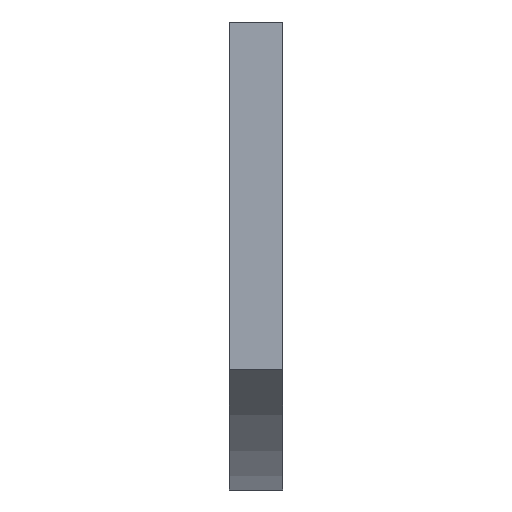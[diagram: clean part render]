
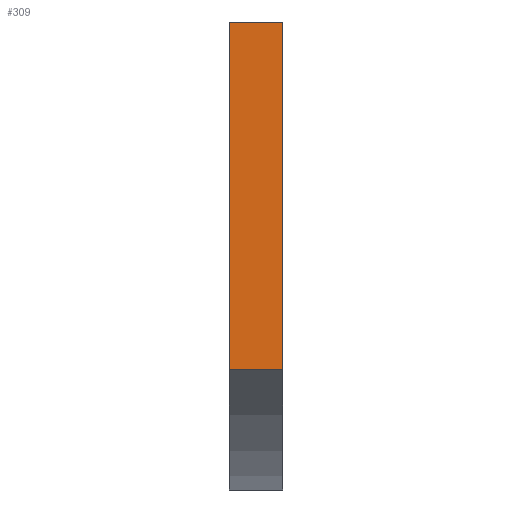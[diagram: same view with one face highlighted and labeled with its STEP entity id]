
A CAD part, front view. The second image highlights one B-rep face of the part: STEP entity #309.
In plain terms, the highlighted planar face has unit normal (0, -1, 0).
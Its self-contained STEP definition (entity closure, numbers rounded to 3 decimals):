
#21 = EDGE_CURVE('',#22,#24,#26,.T.);
#22 = VERTEX_POINT('',#23);
#23 = CARTESIAN_POINT('',(0.,0.,6.789));
#24 = VERTEX_POINT('',#25);
#25 = CARTESIAN_POINT('',(0.,0.,26.4));
#26 = SURFACE_CURVE('',#27,(#31,#43),.PCURVE_S1.);
#27 = LINE('',#28,#29);
#28 = CARTESIAN_POINT('',(0.,0.,0.));
#29 = VECTOR('',#30,1.);
#30 = DIRECTION('',(0.,0.,1.));
#31 = PCURVE('',#32,#37);
#32 = PLANE('',#33);
#33 = AXIS2_PLACEMENT_3D('',#34,#35,#36);
#34 = CARTESIAN_POINT('',(0.,0.,0.));
#35 = DIRECTION('',(1.,0.,-0.));
#36 = DIRECTION('',(0.,0.,1.));
#37 = DEFINITIONAL_REPRESENTATION('',(#38),#42);
#38 = LINE('',#39,#40);
#39 = CARTESIAN_POINT('',(0.,0.));
#40 = VECTOR('',#41,1.);
#41 = DIRECTION('',(1.,0.));
#42 = ( GEOMETRIC_REPRESENTATION_CONTEXT(2) 
PARAMETRIC_REPRESENTATION_CONTEXT() REPRESENTATION_CONTEXT('2D SPACE',''
  ) );
#43 = PCURVE('',#44,#49);
#44 = PLANE('',#45);
#45 = AXIS2_PLACEMENT_3D('',#46,#47,#48);
#46 = CARTESIAN_POINT('',(0.,0.,0.));
#47 = DIRECTION('',(-0.,1.,0.));
#48 = DIRECTION('',(0.,0.,1.));
#49 = DEFINITIONAL_REPRESENTATION('',(#50),#54);
#50 = LINE('',#51,#52);
#51 = CARTESIAN_POINT('',(0.,0.));
#52 = VECTOR('',#53,1.);
#53 = DIRECTION('',(1.,0.));
#54 = ( GEOMETRIC_REPRESENTATION_CONTEXT(2) 
PARAMETRIC_REPRESENTATION_CONTEXT() REPRESENTATION_CONTEXT('2D SPACE',''
  ) );
#73 = CYLINDRICAL_SURFACE('',#74,44.7);
#74 = AXIS2_PLACEMENT_3D('',#75,#76,#77);
#75 = CARTESIAN_POINT('',(-2.,24.,44.5));
#76 = DIRECTION('',(1.,0.,0.));
#77 = DIRECTION('',(-0.,0.,1.));
#298 = PLANE('',#299);
#299 = AXIS2_PLACEMENT_3D('',#300,#301,#302);
#300 = CARTESIAN_POINT('',(-2.,-1.,26.4));
#301 = DIRECTION('',(0.,0.,1.));
#302 = DIRECTION('',(1.,0.,-0.));
#309 = ADVANCED_FACE('',(#310),#44,.F.);
#310 = FACE_BOUND('',#311,.F.);
#311 = EDGE_LOOP('',(#312,#342,#363,#364));
#312 = ORIENTED_EDGE('',*,*,#313,.F.);
#313 = EDGE_CURVE('',#314,#316,#318,.T.);
#314 = VERTEX_POINT('',#315);
#315 = CARTESIAN_POINT('',(3.,0.,6.789));
#316 = VERTEX_POINT('',#317);
#317 = CARTESIAN_POINT('',(3.,0.,26.4));
#318 = SURFACE_CURVE('',#319,(#323,#330),.PCURVE_S1.);
#319 = LINE('',#320,#321);
#320 = CARTESIAN_POINT('',(3.,0.,0.));
#321 = VECTOR('',#322,1.);
#322 = DIRECTION('',(0.,0.,1.));
#323 = PCURVE('',#44,#324);
#324 = DEFINITIONAL_REPRESENTATION('',(#325),#329);
#325 = LINE('',#326,#327);
#326 = CARTESIAN_POINT('',(0.,3.));
#327 = VECTOR('',#328,1.);
#328 = DIRECTION('',(1.,0.));
#329 = ( GEOMETRIC_REPRESENTATION_CONTEXT(2) 
PARAMETRIC_REPRESENTATION_CONTEXT() REPRESENTATION_CONTEXT('2D SPACE',''
  ) );
#330 = PCURVE('',#331,#336);
#331 = PLANE('',#332);
#332 = AXIS2_PLACEMENT_3D('',#333,#334,#335);
#333 = CARTESIAN_POINT('',(3.,0.,0.));
#334 = DIRECTION('',(1.,0.,-0.));
#335 = DIRECTION('',(0.,0.,1.));
#336 = DEFINITIONAL_REPRESENTATION('',(#337),#341);
#337 = LINE('',#338,#339);
#338 = CARTESIAN_POINT('',(0.,0.));
#339 = VECTOR('',#340,1.);
#340 = DIRECTION('',(1.,0.));
#341 = ( GEOMETRIC_REPRESENTATION_CONTEXT(2) 
PARAMETRIC_REPRESENTATION_CONTEXT() REPRESENTATION_CONTEXT('2D SPACE',''
  ) );
#342 = ORIENTED_EDGE('',*,*,#343,.F.);
#343 = EDGE_CURVE('',#22,#314,#344,.T.);
#344 = SURFACE_CURVE('',#345,(#349,#356),.PCURVE_S1.);
#345 = LINE('',#346,#347);
#346 = CARTESIAN_POINT('',(-2.,0.,6.789));
#347 = VECTOR('',#348,1.);
#348 = DIRECTION('',(1.,0.,0.));
#349 = PCURVE('',#44,#350);
#350 = DEFINITIONAL_REPRESENTATION('',(#351),#355);
#351 = LINE('',#352,#353);
#352 = CARTESIAN_POINT('',(6.789,-2.));
#353 = VECTOR('',#354,1.);
#354 = DIRECTION('',(0.,1.));
#355 = ( GEOMETRIC_REPRESENTATION_CONTEXT(2) 
PARAMETRIC_REPRESENTATION_CONTEXT() REPRESENTATION_CONTEXT('2D SPACE',''
  ) );
#356 = PCURVE('',#73,#357);
#357 = DEFINITIONAL_REPRESENTATION('',(#358),#362);
#358 = LINE('',#359,#360);
#359 = CARTESIAN_POINT('',(2.575,0.));
#360 = VECTOR('',#361,1.);
#361 = DIRECTION('',(0.,1.));
#362 = ( GEOMETRIC_REPRESENTATION_CONTEXT(2) 
PARAMETRIC_REPRESENTATION_CONTEXT() REPRESENTATION_CONTEXT('2D SPACE',''
  ) );
#363 = ORIENTED_EDGE('',*,*,#21,.T.);
#364 = ORIENTED_EDGE('',*,*,#365,.T.);
#365 = EDGE_CURVE('',#24,#316,#366,.T.);
#366 = SURFACE_CURVE('',#367,(#371,#378),.PCURVE_S1.);
#367 = LINE('',#368,#369);
#368 = CARTESIAN_POINT('',(-1.,0.,26.4));
#369 = VECTOR('',#370,1.);
#370 = DIRECTION('',(1.,0.,-0.));
#371 = PCURVE('',#44,#372);
#372 = DEFINITIONAL_REPRESENTATION('',(#373),#377);
#373 = LINE('',#374,#375);
#374 = CARTESIAN_POINT('',(26.4,-1.));
#375 = VECTOR('',#376,1.);
#376 = DIRECTION('',(0.,1.));
#377 = ( GEOMETRIC_REPRESENTATION_CONTEXT(2) 
PARAMETRIC_REPRESENTATION_CONTEXT() REPRESENTATION_CONTEXT('2D SPACE',''
  ) );
#378 = PCURVE('',#298,#379);
#379 = DEFINITIONAL_REPRESENTATION('',(#380),#384);
#380 = LINE('',#381,#382);
#381 = CARTESIAN_POINT('',(1.,1.));
#382 = VECTOR('',#383,1.);
#383 = DIRECTION('',(1.,0.));
#384 = ( GEOMETRIC_REPRESENTATION_CONTEXT(2) 
PARAMETRIC_REPRESENTATION_CONTEXT() REPRESENTATION_CONTEXT('2D SPACE',''
  ) );
